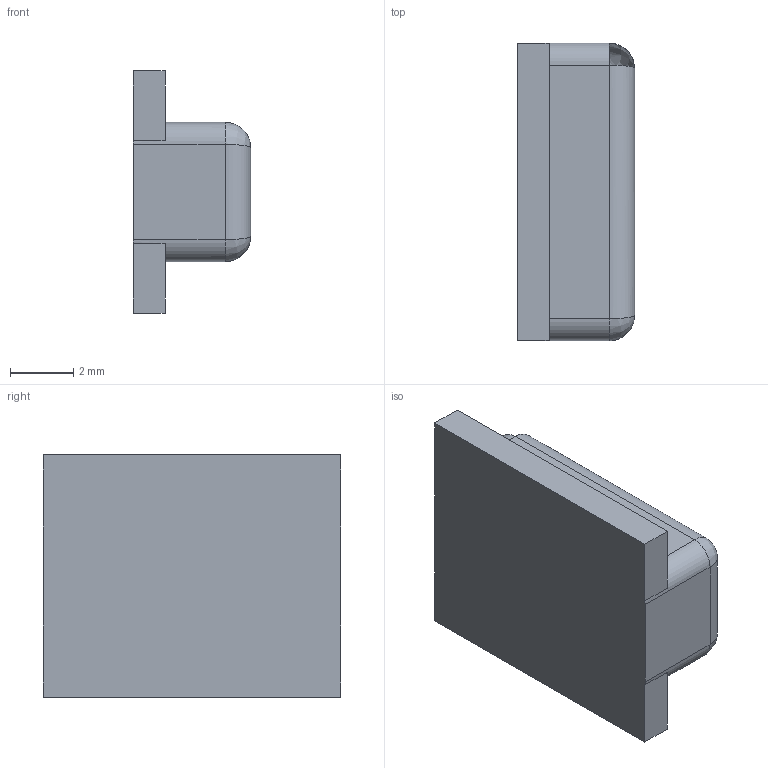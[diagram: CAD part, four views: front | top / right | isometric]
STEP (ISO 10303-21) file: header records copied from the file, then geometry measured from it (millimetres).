
FILE_DESCRIPTION(('HOOPS Exchange Step'),'2;1');
FILE_NAME('/private/var/mobile/Containers/Data/Application/6CA7BBC5-1316-439E-A042-ED4FE808E911/tmp/export/temp_export','2026-07-31T15:02:53-05:00',('mobile'),('Shapr3D Limited'),'HOOPS Exchange 2026.3','Shapr3D','Authorized');
FILE_SCHEMA( ('AP242_MANAGED_MODEL_BASED_3D_ENGINEERING_MIM_LF {1 0 10303 442 1 1 4}') );
Length unit declared in the file: millimetre
Products named in the file (1): root
Bounding box: 3.7 x 9.4 x 7.65 mm (x, y, z)
Volume: 178.9 mm3; surface area: 239.6 mm2
Topology: 1 solids, 1 shells, 26 faces, 64 edges, 36 vertices
Faces by surface type: plane 14, cylinder 8, bspline 4
Entity records: 1148 total; most frequent: CARTESIAN_POINT 520, DIRECTION 128, ORIENTED_EDGE 120, EDGE_CURVE 60, AXIS2_PLACEMENT_3D 44, VECTOR 40, LINE 40, VERTEX_POINT 36
